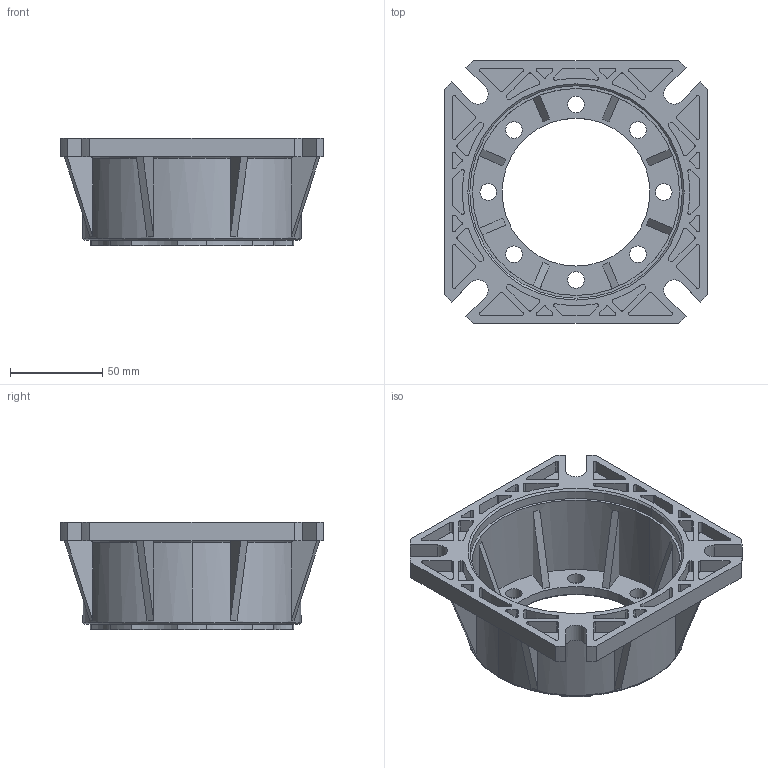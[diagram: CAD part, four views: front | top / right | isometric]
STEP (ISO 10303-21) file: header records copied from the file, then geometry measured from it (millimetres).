
FILE_DESCRIPTION (( 'STEP AP203' ), '1' );
FILE_NAME ('FCN 063-FB.STEP', '2017-01-19T05:48:50', ( 'jsk-23' ), ( 'hx' ), 'SwSTEP 2.0', 'SolidWorks 2012', '' );
FILE_SCHEMA (( 'CONFIG_CONTROL_DESIGN' ));
Length unit declared in the file: millimetre
Products named in the file (1): FCN 063-FB
Bounding box: 142 x 142 x 58 mm (x, y, z)
Volume: 155118.4 mm3; surface area: 90858.6 mm2
Topology: 1 solids, 1 shells, 461 faces, 1250 edges, 831 vertices
Faces by surface type: cylinder 244, plane 202, torus 11, cone 4
Entity records: 14875 total; most frequent: CARTESIAN_POINT 2675, DIRECTION 2664, ORIENTED_EDGE 2500, EDGE_CURVE 1250, AXIS2_PLACEMENT_3D 984, VERTEX_POINT 831, VECTOR 696, LINE 696
